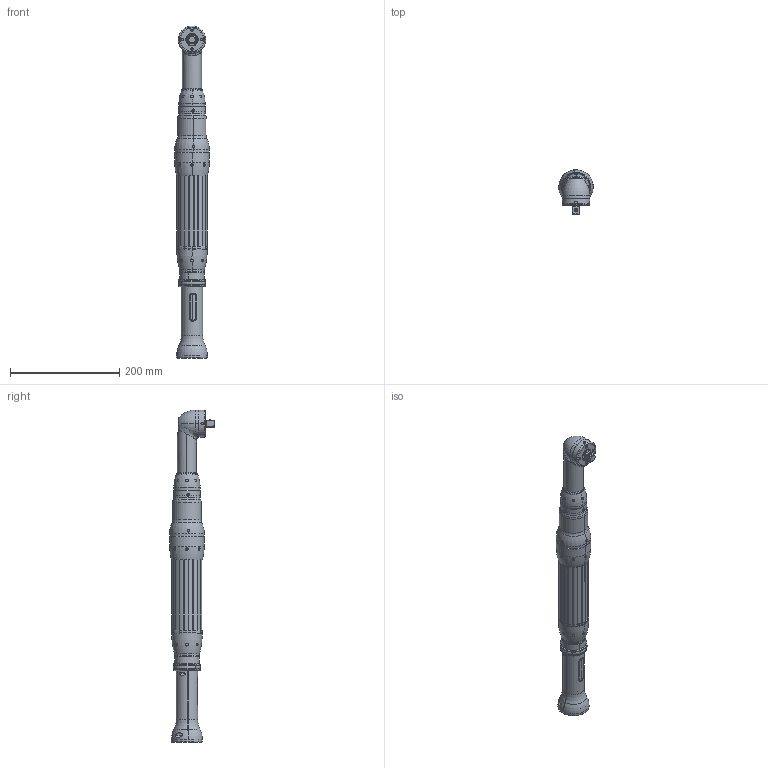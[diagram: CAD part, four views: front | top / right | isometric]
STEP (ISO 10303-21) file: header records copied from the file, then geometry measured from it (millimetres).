
FILE_DESCRIPTION (( 'STEP AP214' ), '1' );
FILE_NAME ('120拧紧枪.STEP', '2025-03-24T08:26:25', ( '' ), ( '' ), 'SwSTEP 2.0', 'SolidWorks 2021', '' );
FILE_SCHEMA (( 'AUTOMOTIVE_DESIGN' ));
Length unit declared in the file: millimetre
Products named in the file (1): 120禳踡Л
Bounding box: 63 x 81.5 x 607.75 mm (x, y, z)
Surface area: 119946.8 mm2 (no closed solid volume)
Topology: 0 solids, 28 shells, 666 faces, 1876 edges, 1260 vertices
Faces by surface type: cylinder 304, plane 154, torus 90, bspline 90, cone 20, sphere 8
Entity records: 73620 total; most frequent: CARTESIAN_POINT 49920, DIRECTION 3434, ORIENTED_EDGE 3083, EDGE_CURVE 1872, AXIS2_PLACEMENT_3D 1388, VERTEX_POINT 1260, CIRCLE 811, EDGE_LOOP 728
